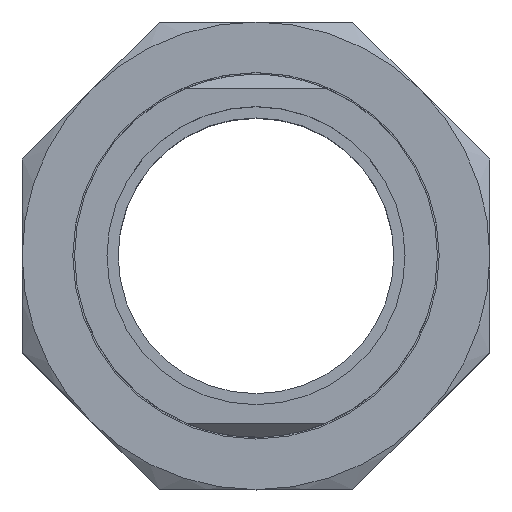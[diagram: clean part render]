
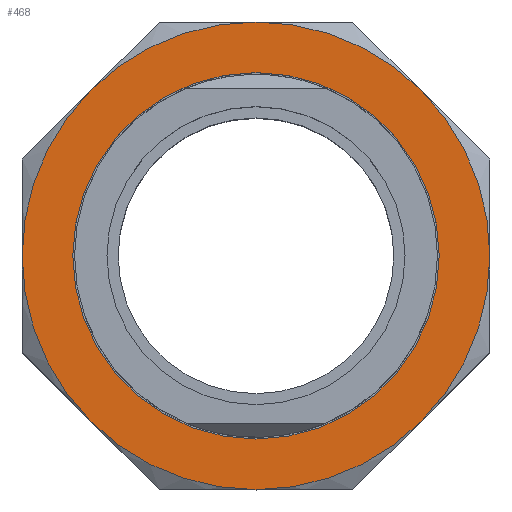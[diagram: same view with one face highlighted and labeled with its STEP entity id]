
A CAD part, top view. The second image highlights one B-rep face of the part: STEP entity #468.
In plain terms, the highlighted planar face has unit normal (0, 0, 1).
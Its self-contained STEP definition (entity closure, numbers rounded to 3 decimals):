
#276 = VERTEX_POINT ( 'NONE', #1230 ) ;
#298 = EDGE_CURVE ( 'NONE', #303, #276, #1249, .T. ) ;
#303 = VERTEX_POINT ( 'NONE', #1237 ) ;
#308 = VERTEX_POINT ( 'NONE', #1292 ) ;
#312 = EDGE_CURVE ( 'NONE', #426, #433, #1275, .T. ) ;
#319 = EDGE_CURVE ( 'NONE', #308, #426, #1270, .T. ) ;
#420 = EDGE_CURVE ( 'NONE', #433, #446, #1500, .T. ) ;
#425 = EDGE_CURVE ( 'NONE', #446, #432, #1486, .T. ) ;
#426 = VERTEX_POINT ( 'NONE', #1487 ) ;
#432 = VERTEX_POINT ( 'NONE', #1470 ) ;
#433 = VERTEX_POINT ( 'NONE', #1469 ) ;
#446 = VERTEX_POINT ( 'NONE', #1512 ) ;
#466 = EDGE_CURVE ( 'NONE', #276, #303, #1579, .T. ) ;
#467 = ORIENTED_EDGE ( 'NONE', *, *, #466, .F. ) ;
#468 = ADVANCED_FACE ( 'NONE', ( #1574, #1573 ), #1572, .F. ) ;
#471 = EDGE_LOOP ( 'NONE', ( #467, #523 ) ) ;
#478 = EDGE_LOOP ( 'NONE', ( #522, #521, #520, #583, #584, #587, #582, #578 ) ) ;
#520 = ORIENTED_EDGE ( 'NONE', *, *, #420, .T. ) ;
#521 = ORIENTED_EDGE ( 'NONE', *, *, #312, .T. ) ;
#522 = ORIENTED_EDGE ( 'NONE', *, *, #319, .T. ) ;
#523 = ORIENTED_EDGE ( 'NONE', *, *, #298, .F. ) ;
#555 = EDGE_CURVE ( 'NONE', #562, #638, #1777, .T. ) ;
#561 = EDGE_CURVE ( 'NONE', #432, #562, #1812, .T. ) ;
#562 = VERTEX_POINT ( 'NONE', #1813 ) ;
#578 = ORIENTED_EDGE ( 'NONE', *, *, #631, .T. ) ;
#582 = ORIENTED_EDGE ( 'NONE', *, *, #641, .T. ) ;
#583 = ORIENTED_EDGE ( 'NONE', *, *, #425, .T. ) ;
#584 = ORIENTED_EDGE ( 'NONE', *, *, #561, .T. ) ;
#587 = ORIENTED_EDGE ( 'NONE', *, *, #555, .T. ) ;
#629 = VERTEX_POINT ( 'NONE', #1957 ) ;
#631 = EDGE_CURVE ( 'NONE', #629, #308, #1956, .T. ) ;
#638 = VERTEX_POINT ( 'NONE', #1994 ) ;
#641 = EDGE_CURVE ( 'NONE', #638, #629, #1978, .T. ) ;
#1230 = CARTESIAN_POINT ( 'NONE',  ( 26.25, 0., 13.5 ) ) ;
#1237 = CARTESIAN_POINT ( 'NONE',  ( -26.25, 0., 13.5 ) ) ;
#1245 = DIRECTION ( 'NONE',  ( 1., 0., 0. ) ) ;
#1246 = DIRECTION ( 'NONE',  ( 0., 0., 1. ) ) ;
#1247 = CARTESIAN_POINT ( 'NONE',  ( 0., 0., 13.5 ) ) ;
#1248 = AXIS2_PLACEMENT_3D ( 'NONE', #1247, #1246, #1245 ) ;
#1249 = CIRCLE ( 'NONE', #1248, 26.25 ) ;
#1267 = DIRECTION ( 'NONE',  ( 0., 0., 1. ) ) ;
#1268 = CARTESIAN_POINT ( 'NONE',  ( 0., 0., 13.5 ) ) ;
#1269 = AXIS2_PLACEMENT_3D ( 'NONE', #1268, #1267, #1322 ) ;
#1270 = CIRCLE ( 'NONE', #1269, 33.5 ) ;
#1271 = DIRECTION ( 'NONE',  ( 1., 0., 0. ) ) ;
#1272 = DIRECTION ( 'NONE',  ( 0., 0., 1. ) ) ;
#1273 = CARTESIAN_POINT ( 'NONE',  ( 0., 0., 13.5 ) ) ;
#1274 = AXIS2_PLACEMENT_3D ( 'NONE', #1273, #1272, #1271 ) ;
#1275 = CIRCLE ( 'NONE', #1274, 33.5 ) ;
#1292 = CARTESIAN_POINT ( 'NONE',  ( 33.5, 0., 13.5 ) ) ;
#1322 = DIRECTION ( 'NONE',  ( 1., 0., 0. ) ) ;
#1469 = CARTESIAN_POINT ( 'NONE',  ( 0., 33.5, 13.5 ) ) ;
#1470 = CARTESIAN_POINT ( 'NONE',  ( -33.5, 0., 13.5 ) ) ;
#1474 = DIRECTION ( 'NONE',  ( 1., 0., 0. ) ) ;
#1475 = DIRECTION ( 'NONE',  ( 0., 0., 1. ) ) ;
#1476 = CARTESIAN_POINT ( 'NONE',  ( 0., 0., 13.5 ) ) ;
#1477 = AXIS2_PLACEMENT_3D ( 'NONE', #1476, #1475, #1474 ) ;
#1486 = CIRCLE ( 'NONE', #1477, 33.5 ) ;
#1487 = CARTESIAN_POINT ( 'NONE',  ( 23.688, 23.688, 13.5 ) ) ;
#1496 = DIRECTION ( 'NONE',  ( 1., 0., 0. ) ) ;
#1497 = DIRECTION ( 'NONE',  ( 0., 0., 1. ) ) ;
#1498 = CARTESIAN_POINT ( 'NONE',  ( 0., 0., 13.5 ) ) ;
#1499 = AXIS2_PLACEMENT_3D ( 'NONE', #1498, #1497, #1496 ) ;
#1500 = CIRCLE ( 'NONE', #1499, 33.5 ) ;
#1512 = CARTESIAN_POINT ( 'NONE',  ( -23.688, 23.688, 13.5 ) ) ;
#1567 = DIRECTION ( 'NONE',  ( -1., 0., 0. ) ) ;
#1568 = DIRECTION ( 'NONE',  ( 0., 0., -1. ) ) ;
#1569 = AXIS2_PLACEMENT_3D ( 'NONE', #1571, #1568, #1567 ) ;
#1571 = CARTESIAN_POINT ( 'NONE',  ( 0., 33.5, 13.5 ) ) ;
#1572 = PLANE ( 'NONE',  #1569 ) ;
#1573 = FACE_OUTER_BOUND ( 'NONE', #478, .T. ) ;
#1574 = FACE_BOUND ( 'NONE', #471, .T. ) ;
#1575 = DIRECTION ( 'NONE',  ( 1., 0., 0. ) ) ;
#1576 = DIRECTION ( 'NONE',  ( 0., 0., 1. ) ) ;
#1577 = CARTESIAN_POINT ( 'NONE',  ( 0., 0., 13.5 ) ) ;
#1578 = AXIS2_PLACEMENT_3D ( 'NONE', #1577, #1576, #1575 ) ;
#1579 = CIRCLE ( 'NONE', #1578, 26.25 ) ;
#1773 = DIRECTION ( 'NONE',  ( 1., 0., 0. ) ) ;
#1774 = DIRECTION ( 'NONE',  ( 0., 0., 1. ) ) ;
#1775 = CARTESIAN_POINT ( 'NONE',  ( 0., 0., 13.5 ) ) ;
#1776 = AXIS2_PLACEMENT_3D ( 'NONE', #1775, #1774, #1773 ) ;
#1777 = CIRCLE ( 'NONE', #1776, 33.5 ) ;
#1801 = DIRECTION ( 'NONE',  ( 1., 0., 0. ) ) ;
#1802 = DIRECTION ( 'NONE',  ( 0., 0., 1. ) ) ;
#1803 = AXIS2_PLACEMENT_3D ( 'NONE', #1814, #1802, #1801 ) ;
#1812 = CIRCLE ( 'NONE', #1803, 33.5 ) ;
#1813 = CARTESIAN_POINT ( 'NONE',  ( -23.688, -23.688, 13.5 ) ) ;
#1814 = CARTESIAN_POINT ( 'NONE',  ( 0., 0., 13.5 ) ) ;
#1944 = DIRECTION ( 'NONE',  ( 1., 0., 0. ) ) ;
#1945 = DIRECTION ( 'NONE',  ( 0., 0., 1. ) ) ;
#1946 = CARTESIAN_POINT ( 'NONE',  ( 0., 0., 13.5 ) ) ;
#1947 = AXIS2_PLACEMENT_3D ( 'NONE', #1946, #1945, #1944 ) ;
#1956 = CIRCLE ( 'NONE', #1947, 33.5 ) ;
#1957 = CARTESIAN_POINT ( 'NONE',  ( 23.688, -23.688, 13.5 ) ) ;
#1975 = DIRECTION ( 'NONE',  ( 1., 0., 0. ) ) ;
#1976 = DIRECTION ( 'NONE',  ( 0., 0., 1. ) ) ;
#1977 = AXIS2_PLACEMENT_3D ( 'NONE', #1987, #1976, #1975 ) ;
#1978 = CIRCLE ( 'NONE', #1977, 33.5 ) ;
#1987 = CARTESIAN_POINT ( 'NONE',  ( 0., 0., 13.5 ) ) ;
#1994 = CARTESIAN_POINT ( 'NONE',  ( 0., -33.5, 13.5 ) ) ;
